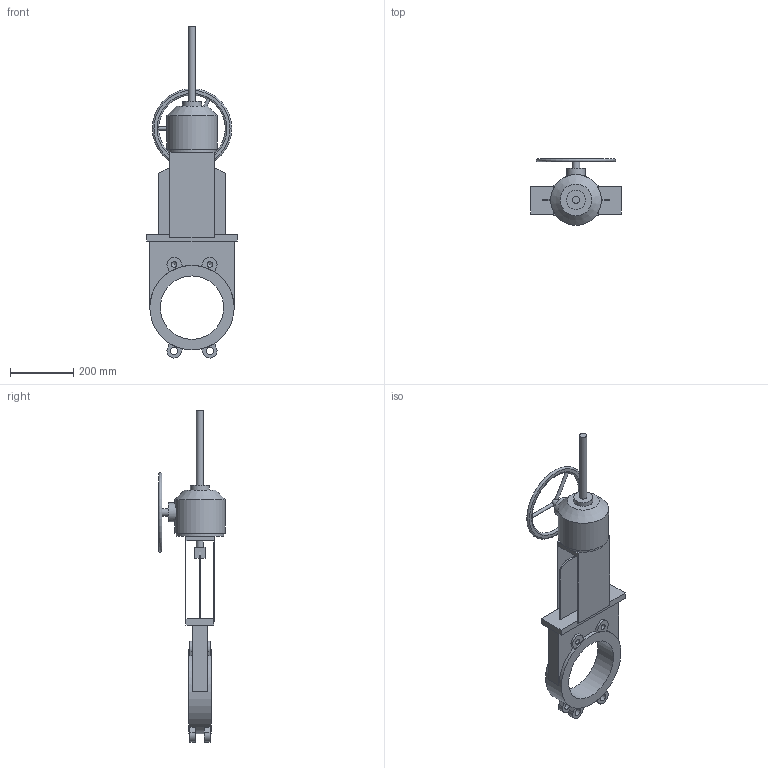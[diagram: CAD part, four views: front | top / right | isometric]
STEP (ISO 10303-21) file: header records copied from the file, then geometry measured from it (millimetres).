
FILE_DESCRIPTION(('STEP AP203'), '1');
FILE_NAME('Çàäâèæêà øèáåðíàÿ K51GV DN200 ðåäóêòîð+âûäâèæíîé øïèíäåëü', '', ('UNSPECIFIED'), ('UNSPECIFIED'), 'ASCON STEP Converter 1.6', 'ASCON Math Kernel', '');
FILE_SCHEMA(('CONFIG_CONTROL_DESIGN'));
Length unit declared in the file: millimetre
Bounding box: 286 x 210 x 1046.75 mm (x, y, z)
Volume: 7388230.5 mm3; surface area: 701221.5 mm2
Topology: 1 solids, 1 shells, 117 faces, 301 edges, 191 vertices
Faces by surface type: plane 80, cylinder 28, cone 5, torus 4
Full cylindrical faces by diameter (mm): 10 x3, 17.294 x4, 22 x2, 23 x4, 24 x1, 60 x2, 150 x1, 160 x1, 200 x1, 266 x1
Entity records: 5625 total; most frequent: CARTESIAN_POINT 1854, DIRECTION 582, ORIENTED_EDGE 540, EDGE_CURVE 270, AXIS2_PLACEMENT_3D 207, VERTEX_POINT 187, EDGE_LOOP 169, LINE 168
